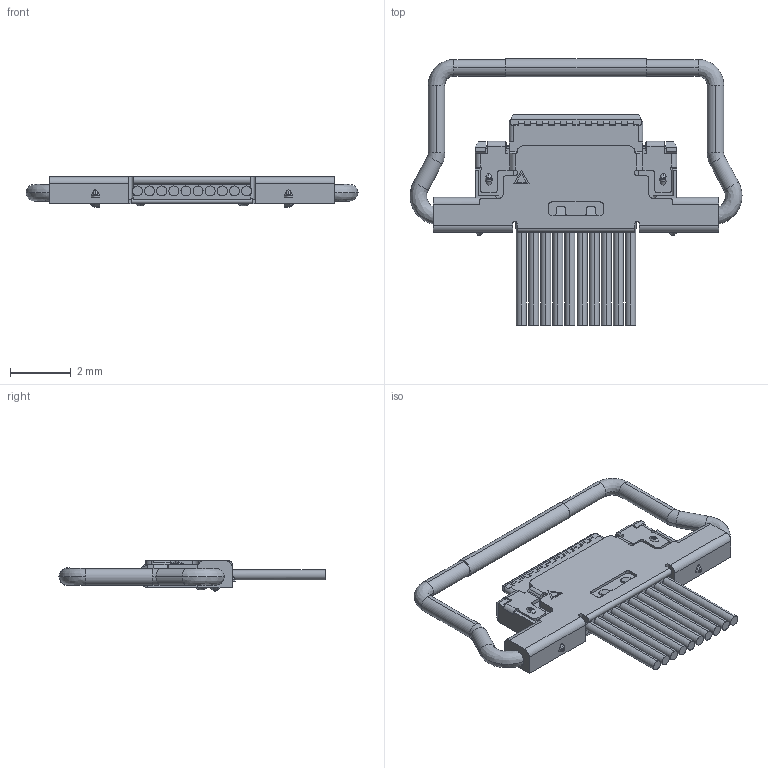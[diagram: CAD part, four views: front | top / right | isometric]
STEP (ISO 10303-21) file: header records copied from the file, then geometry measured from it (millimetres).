
FILE_DESCRIPTION (( 'STEP AP203' ), '1' );
FILE_NAME ('20736-010T-01SC PLUG CABLE ASS''Y STEP R0R0R1 ALL.STEP', '2016-03-29T01:26:17', ( '' ), ( '' ), 'SwSTEP 2.0', 'SolidWorks 2012', '' );
FILE_SCHEMA (( 'CONFIG_CONTROL_DESIGN' ));
Length unit declared in the file: millimetre
Products named in the file (1): 20736-010T-01SC PLUG CABLE ASS''Y STEP R0R0R1 ALL
Bounding box: 10.95 x 8.78 x 1 mm (x, y, z)
Volume: 26.9 mm3; surface area: 146.5 mm2
Topology: 1 solids, 1 shells, 471 faces, 1264 edges, 804 vertices
Faces by surface type: plane 269, cylinder 144, bspline 33, cone 25
Entity records: 15837 total; most frequent: CARTESIAN_POINT 4180, ORIENTED_EDGE 2504, DIRECTION 2323, EDGE_CURVE 1252, VECTOR 829, LINE 829, VERTEX_POINT 804, AXIS2_PLACEMENT_3D 747
